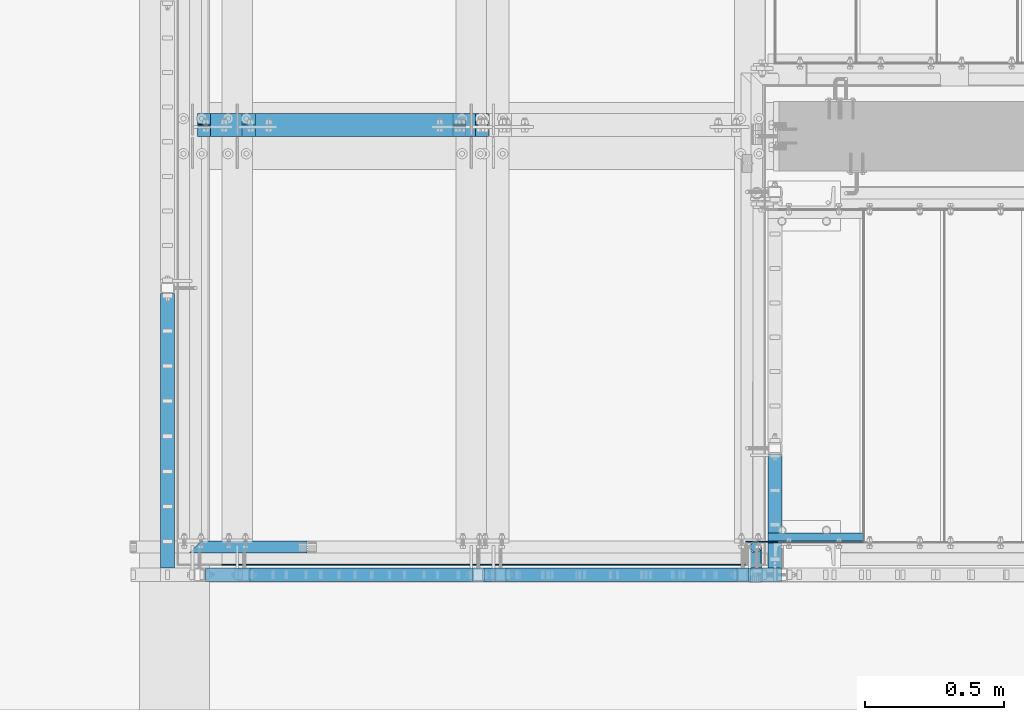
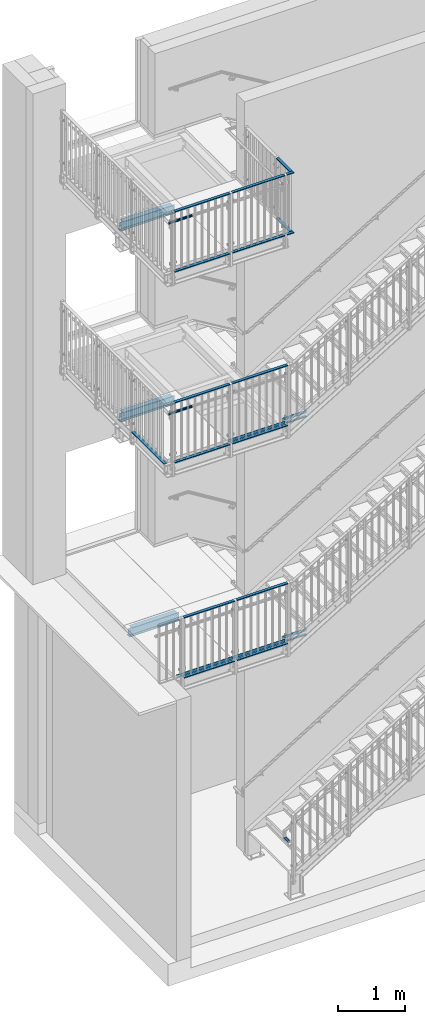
# One storey, part 40 of 410: 30 beams, 18 openings.
"""IFC2X3 building model written with IfcOpenShell, lengths in millimetres."""

from ifc_helpers import new_model, entity, si_unit, converted_unit, point, frame, frame_2d, origin, origin_with_axes, origin_2d, place, context, project, spatial, circle_curve, line_curve, trimmed, segment, composite_curve, rectangle, circle, hollow_circle, i_section, outline, extrude, clip, halfspace, material, element, save


model = new_model("IFC2X3")

# Units and contexts
model_context = context("Model", 3, precision=1e-09, world=origin_with_axes())
ifc_project = project(units=[si_unit("LENGTHUNIT", "METRE", prefix="MILLI"), si_unit("AREAUNIT", "SQUARE_METRE"), si_unit("VOLUMEUNIT", "CUBIC_METRE"), converted_unit("PLANEANGLEUNIT", "DEGREE", entity("IfcPlaneAngleMeasure", 0.01745329), si_unit("PLANEANGLEUNIT", "RADIAN"), dimensions=[0, 0, 0, 0, 0, 0, 0])], contexts=[model_context])

# Site, building, storey
site_placement = place(None, origin_with_axes())
site = spatial("IfcSite", under=ifc_project, at=site_placement, Name="mKR Teilneubau & Sanierung BA1 - Ostfildern", CompositionType="ELEMENT")
building_placement = place(site_placement, origin_with_axes())
building = spatial("IfcBuilding", under=site, at=building_placement, Name="Struktur 1", CompositionType="ELEMENT")
storey_placement = place(building_placement, origin_with_axes())
storey = spatial("IfcBuildingStorey", under=building, at=storey_placement, Name="Default Storey", CompositionType="ELEMENT", Elevation=0.0)

# Beam, openings
ifc_material = material(Name="S235JR")
beam_1_placement = place(None, frame((-3792.0485317, 17020.0, 7360.0), z_axis=(-1.0, 0.0, 0.0), x_axis=(0.0, -1.0, 0.0)))
beam_1 = element("IfcBeam", 1, at=beam_1_placement, inside=storey, material=ifc_material, Name="-", ObjectType="-", context=model_context, shape_type="SweptSolid", body=[
    extrude(i_section(OverallWidth=82.0, OverallDepth=160.0, WebThickness=5.0, FlangeThickness=7.4, FilletRadius=9.0, at=origin_2d()), origin(), (0.0, 0.0, -1.0), 964.1),
])
opening_1_placement = place(beam_1_placement, frame((-141.1, 80.0, -964.1), z_axis=(1.0, 0.0, 0.0), x_axis=(0.0, 0.0, -1.0)))
element("IfcOpeningElement", 2, at=opening_1_placement, cuts=beam_1, ObjectType="Opening", context=model_context, shape_type="SweptSolid", body=[
    extrude(outline(composite_curve([segment(trimmed(circle_curve(frame_2d((-42.051, -20.001), x_axis=(1.0, 0.0)), 5.0), [point((-47.051, -20.001))], [point((-42.051, -25.001))], True, "CARTESIAN"), True, "CONTINUOUS"), segment(trimmed(line_curve((-42.051, -25.001), (1.0, 0.0), 50.275947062), [point((-42.051, -25.001))], [point((8.224947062, -25.001))], True, "CARTESIAN"), True, "CONTINUOUS"), segment(trimmed(circle_curve(frame_2d((8.224947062, -20.001), x_axis=(1.0, 0.0)), 5.0), [point((8.224947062, -25.001))], [point((13.224947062, -20.001))], True, "CARTESIAN"), True, "CONTINUOUS"), segment(trimmed(line_curve((13.224947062, -20.001), (0.0, 1.0), 28.45899753), [point((13.224947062, -20.001))], [point((13.224947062, 8.45799753))], True, "CARTESIAN"), True, "CONTINUOUS"), segment(trimmed(circle_curve(frame_2d((8.224947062, 8.45799753), x_axis=(1.0, 0.0)), 5.0), [point((13.224947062, 8.45799753))], [point((8.224947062, 13.45799753))], True, "CARTESIAN"), True, "CONTINUOUS"), segment(trimmed(line_curve((8.224947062, 13.45799753), (-1.0, 0.0), 50.275947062), [point((8.224947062, 13.45799753))], [point((-42.051, 13.45799753))], True, "CARTESIAN"), True, "CONTINUOUS"), segment(trimmed(circle_curve(frame_2d((-42.051, 8.45799753), x_axis=(1.0, 0.0)), 5.0), [point((-42.051, 13.45799753))], [point((-47.051, 8.45799753))], True, "CARTESIAN"), True, "CONTINUOUS"), segment(trimmed(line_curve((-47.051, 8.45799753), (0.0, -1.0), 28.45899753), [point((-47.051, 8.45799753))], [point((-47.051, -20.001))], True, "CARTESIAN"), True, "CONTINUOUS")], self_intersect=False)), origin(), (0.0, 0.0, 1.0), 282.2),
])
opening_2_placement = place(beam_1_placement, frame((-141.1, 80.0, 0.0), z_axis=(1.0, 0.0, 0.0), x_axis=(0.0, 0.0, -1.0)))
element("IfcOpeningElement", 3, at=opening_2_placement, cuts=beam_1, ObjectType="Opening", context=model_context, shape_type="SweptSolid", body=[
    extrude(outline(composite_curve([segment(trimmed(circle_curve(frame_2d((-11.27912247, -20.001), x_axis=(1.0, 0.0)), 5.0), [point((-16.27912247, -20.001))], [point((-11.27912247, -25.001))], True, "CARTESIAN"), True, "CONTINUOUS"), segment(trimmed(line_curve((-11.27912247, -25.001), (1.0, 0.0), 53.33012247), [point((-11.27912247, -25.001))], [point((42.051, -25.001))], True, "CARTESIAN"), True, "CONTINUOUS"), segment(trimmed(circle_curve(frame_2d((42.051, -20.001), x_axis=(1.0, 0.0)), 5.0), [point((42.051, -25.001))], [point((47.051, -20.001))], True, "CARTESIAN"), True, "CONTINUOUS"), segment(trimmed(line_curve((47.051, -20.001), (0.0, 1.0), 45.855644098), [point((47.051, -20.001))], [point((47.051, 25.854644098))], True, "CARTESIAN"), True, "CONTINUOUS"), segment(trimmed(circle_curve(frame_2d((42.051, 25.854644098), x_axis=(1.0, 0.0)), 5.0), [point((47.051, 25.854644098))], [point((42.051, 30.854644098))], True, "CARTESIAN"), True, "CONTINUOUS"), segment(trimmed(line_curve((42.051, 30.854644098), (-1.0, 0.0), 53.33012247), [point((42.051, 30.854644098))], [point((-11.27912247, 30.854644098))], True, "CARTESIAN"), True, "CONTINUOUS"), segment(trimmed(circle_curve(frame_2d((-11.27912247, 25.854644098), x_axis=(1.0, 0.0)), 5.0), [point((-11.27912247, 30.854644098))], [point((-16.27912247, 25.854644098))], True, "CARTESIAN"), True, "CONTINUOUS"), segment(trimmed(line_curve((-16.27912247, 25.854644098), (0.0, -1.0), 45.855644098), [point((-16.27912247, 25.854644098))], [point((-16.27912247, -20.001))], True, "CARTESIAN"), True, "CONTINUOUS")], self_intersect=False)), origin(), (0.0, 0.0, 1.0), 282.2),
])
opening_3_placement = place(beam_1_placement, frame((-3.0, 0.0, -62.5), z_axis=(1.0, 0.0, 0.0), x_axis=(0.0, 0.0, -1.0)))
element("IfcOpeningElement", 4, at=opening_3_placement, cuts=beam_1, ObjectType="Opening", context=model_context, shape_type="SweptSolid", body=[
    extrude(circle(Radius=9.001, at=frame_2d((32.5, 0.0), x_axis=(1.0, 0.0))), origin(), (0.0, 0.0, 1.0), 6.0),
])
opening_4_placement = place(beam_1_placement, frame((-3.0, 0.0, -62.5), z_axis=(1.0, 0.0, 0.0), x_axis=(0.0, 0.0, -1.0)))
element("IfcOpeningElement", 5, at=opening_4_placement, cuts=beam_1, ObjectType="Opening", context=model_context, shape_type="SweptSolid", body=[
    extrude(circle(Radius=9.001, at=frame_2d((-32.5, 0.0), x_axis=(1.0, 0.0))), origin(), (0.0, 0.0, 1.0), 6.0),
])
opening_5_placement = place(beam_1_placement, frame((-3.0, 0.0, -878.101), z_axis=(-1.0, 0.0, 0.0), x_axis=(0.0, -1.0, 0.0)))
element("IfcOpeningElement", 6, at=opening_5_placement, cuts=beam_1, ObjectType="Opening", context=model_context, shape_type="SweptSolid", body=[
    extrude(circle(Radius=9.001, at=frame_2d((0.0, 9.001), x_axis=(1.0, 0.0))), origin(), (0.0, 0.0, -1.0), 6.0),
])
opening_6_placement = place(beam_1_placement, frame((-3.0, 0.0, -943.101), z_axis=(-1.0, 0.0, 0.0), x_axis=(0.0, -1.0, 0.0)))
element("IfcOpeningElement", 7, at=opening_6_placement, cuts=beam_1, ObjectType="Opening", context=model_context, shape_type="SweptSolid", body=[
    extrude(circle(Radius=9.001, at=frame_2d((0.0, 9.001), x_axis=(1.0, 0.0))), origin(), (0.0, 0.0, -1.0), 6.0),
])

beam_2_placement = place(None, frame((-3632.0485317, 17020.0, -140.0), z_axis=(-1.0, 0.0, 0.0), x_axis=(0.0, -1.0, 0.0)))
beam_2 = element("IfcBeam", 8, at=beam_2_placement, inside=storey, material=ifc_material, Name="-", ObjectType="-", context=model_context, shape_type="SweptSolid", body=[
    extrude(i_section(OverallWidth=82.0, OverallDepth=160.0, WebThickness=5.0, FlangeThickness=7.4, FilletRadius=9.0, at=origin_2d()), origin(), (0.0, 0.0, -1.0), 884.1),
])
opening_7_placement = place(beam_2_placement, frame((-141.1, 80.0, -884.1), z_axis=(1.0, 0.0, 0.0), x_axis=(0.0, 0.0, -1.0)))
element("IfcOpeningElement", 9, at=opening_7_placement, cuts=beam_2, ObjectType="Opening", context=model_context, shape_type="SweptSolid", body=[
    extrude(outline(composite_curve([segment(trimmed(circle_curve(frame_2d((-42.051, -20.001), x_axis=(1.0, 0.0)), 5.0), [point((-47.051, -20.001))], [point((-42.051, -25.001))], True, "CARTESIAN"), True, "CONTINUOUS"), segment(trimmed(line_curve((-42.051, -25.001), (1.0, 0.0), 50.275947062), [point((-42.051, -25.001))], [point((8.224947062, -25.001))], True, "CARTESIAN"), True, "CONTINUOUS"), segment(trimmed(circle_curve(frame_2d((8.224947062, -20.001), x_axis=(1.0, 0.0)), 5.0), [point((8.224947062, -25.001))], [point((13.224947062, -20.001))], True, "CARTESIAN"), True, "CONTINUOUS"), segment(trimmed(line_curve((13.224947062, -20.001), (0.0, 1.0), 28.45899753), [point((13.224947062, -20.001))], [point((13.224947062, 8.45799753))], True, "CARTESIAN"), True, "CONTINUOUS"), segment(trimmed(circle_curve(frame_2d((8.224947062, 8.45799753), x_axis=(1.0, 0.0)), 5.0), [point((13.224947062, 8.45799753))], [point((8.224947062, 13.45799753))], True, "CARTESIAN"), True, "CONTINUOUS"), segment(trimmed(line_curve((8.224947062, 13.45799753), (-1.0, 0.0), 50.275947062), [point((8.224947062, 13.45799753))], [point((-42.051, 13.45799753))], True, "CARTESIAN"), True, "CONTINUOUS"), segment(trimmed(circle_curve(frame_2d((-42.051, 8.45799753), x_axis=(1.0, 0.0)), 5.0), [point((-42.051, 13.45799753))], [point((-47.051, 8.45799753))], True, "CARTESIAN"), True, "CONTINUOUS"), segment(trimmed(line_curve((-47.051, 8.45799753), (0.0, -1.0), 28.45899753), [point((-47.051, 8.45799753))], [point((-47.051, -20.001))], True, "CARTESIAN"), True, "CONTINUOUS")], self_intersect=False)), origin(), (0.0, 0.0, 1.0), 282.2),
])
opening_8_placement = place(beam_2_placement, frame((-141.1, 80.0, 0.0), z_axis=(1.0, 0.0, 0.0), x_axis=(0.0, 0.0, -1.0)))
element("IfcOpeningElement", 10, at=opening_8_placement, cuts=beam_2, ObjectType="Opening", context=model_context, shape_type="SweptSolid", body=[
    extrude(outline(composite_curve([segment(trimmed(circle_curve(frame_2d((-11.27912247, -20.001), x_axis=(1.0, 0.0)), 5.0), [point((-16.27912247, -20.001))], [point((-11.27912247, -25.001))], True, "CARTESIAN"), True, "CONTINUOUS"), segment(trimmed(line_curve((-11.27912247, -25.001), (1.0, 0.0), 53.33012247), [point((-11.27912247, -25.001))], [point((42.051, -25.001))], True, "CARTESIAN"), True, "CONTINUOUS"), segment(trimmed(circle_curve(frame_2d((42.051, -20.001), x_axis=(1.0, 0.0)), 5.0), [point((42.051, -25.001))], [point((47.051, -20.001))], True, "CARTESIAN"), True, "CONTINUOUS"), segment(trimmed(line_curve((47.051, -20.001), (0.0, 1.0), 45.855644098), [point((47.051, -20.001))], [point((47.051, 25.854644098))], True, "CARTESIAN"), True, "CONTINUOUS"), segment(trimmed(circle_curve(frame_2d((42.051, 25.854644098), x_axis=(1.0, 0.0)), 5.0), [point((47.051, 25.854644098))], [point((42.051, 30.854644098))], True, "CARTESIAN"), True, "CONTINUOUS"), segment(trimmed(line_curve((42.051, 30.854644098), (-1.0, 0.0), 53.33012247), [point((42.051, 30.854644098))], [point((-11.27912247, 30.854644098))], True, "CARTESIAN"), True, "CONTINUOUS"), segment(trimmed(circle_curve(frame_2d((-11.27912247, 25.854644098), x_axis=(1.0, 0.0)), 5.0), [point((-11.27912247, 30.854644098))], [point((-16.27912247, 25.854644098))], True, "CARTESIAN"), True, "CONTINUOUS"), segment(trimmed(line_curve((-16.27912247, 25.854644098), (0.0, -1.0), 45.855644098), [point((-16.27912247, 25.854644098))], [point((-16.27912247, -20.001))], True, "CARTESIAN"), True, "CONTINUOUS")], self_intersect=False)), origin(), (0.0, 0.0, 1.0), 282.2),
])
opening_9_placement = place(beam_2_placement, frame((-3.0, 0.0, -62.5), z_axis=(1.0, 0.0, 0.0), x_axis=(0.0, 0.0, -1.0)))
element("IfcOpeningElement", 11, at=opening_9_placement, cuts=beam_2, ObjectType="Opening", context=model_context, shape_type="SweptSolid", body=[
    extrude(circle(Radius=9.001, at=frame_2d((32.5, 0.0), x_axis=(1.0, 0.0))), origin(), (0.0, 0.0, 1.0), 6.0),
])
opening_10_placement = place(beam_2_placement, frame((-3.0, 0.0, -62.5), z_axis=(1.0, 0.0, 0.0), x_axis=(0.0, 0.0, -1.0)))
element("IfcOpeningElement", 12, at=opening_10_placement, cuts=beam_2, ObjectType="Opening", context=model_context, shape_type="SweptSolid", body=[
    extrude(circle(Radius=9.001, at=frame_2d((-32.5, 0.0), x_axis=(1.0, 0.0))), origin(), (0.0, 0.0, 1.0), 6.0),
])
opening_11_placement = place(beam_2_placement, frame((-3.0, 0.0, -798.101), z_axis=(-1.0, 0.0, 0.0), x_axis=(0.0, -1.0, 0.0)))
element("IfcOpeningElement", 13, at=opening_11_placement, cuts=beam_2, ObjectType="Opening", context=model_context, shape_type="SweptSolid", body=[
    extrude(circle(Radius=9.001, at=frame_2d((0.0, 9.001), x_axis=(1.0, 0.0))), origin(), (0.0, 0.0, -1.0), 6.0),
])
opening_12_placement = place(beam_2_placement, frame((-3.0, 0.0, -863.101), z_axis=(-1.0, 0.0, 0.0), x_axis=(0.0, -1.0, 0.0)))
element("IfcOpeningElement", 14, at=opening_12_placement, cuts=beam_2, ObjectType="Opening", context=model_context, shape_type="SweptSolid", body=[
    extrude(circle(Radius=9.001, at=frame_2d((0.0, 9.001), x_axis=(1.0, 0.0))), origin(), (0.0, 0.0, -1.0), 6.0),
])

# Beams
beam_3_placement = place(None, frame((-1744.9975317, 15537.499999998, 3932.5), z_axis=(1.0, 0.0, 0.0), x_axis=(0.0, 0.0, -1.0)))
element("IfcBeam", 15, at=beam_3_placement, inside=storey, material=ifc_material, Name="-", ObjectType="-", context=model_context, shape_type="SweptSolid", body=[
    extrude(rectangle(XDim=15.0, YDim=35.0, at=origin_2d()), origin(), (0.0, 0.0, 1.0), 341.519669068),
])
beam_4_placement = place(None, frame((-1744.9975317, 15537.499999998, -67.5), z_axis=(1.0, 0.0, 0.0), x_axis=(0.0, 0.0, -1.0)))
element("IfcBeam", 16, at=beam_4_placement, inside=storey, material=ifc_material, Name="-", ObjectType="-", context=model_context, shape_type="SweptSolid", body=[
    extrude(rectangle(XDim=15.0, YDim=35.0, at=origin_2d()), origin(), (0.0, 0.0, 1.0), 342.695388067),
])
for number, where, z_axis, x_axis in (
    (17, (-2764.49853167, 15405.999999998, 5092.5), (-1.0, 0.0, 0.0), (0.0, 0.0, -1.0)),
    (18, (-1805.49853167, 15405.999999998, 3992.5), (1.0, 0.0, 0.0), (0.0, 0.0, 1.0)),
):
    element("IfcBeam", number, at=place(None, frame(where, z_axis=z_axis, x_axis=x_axis)), inside=storey, material=ifc_material, Name="-", ObjectType="-", context=model_context, shape_type="SweptSolid", body=[
        extrude(rectangle(XDim=15.0, YDim=50.0, at=origin_2d()), origin(), (0.0, 0.0, -1.0), 959.0),
    ])
for number, where, z_axis, x_axis in (
    (19, (-2764.49853167, 15405.999999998, 8592.5), (-1.0, 0.0, 0.0), (0.0, 0.0, -1.0)),
    (20, (-1855.49853167, 15405.999999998, 7492.5), (1.0, 0.0, 0.0), (0.0, 0.0, 1.0)),
):
    element("IfcBeam", number, at=place(None, frame(where, z_axis=z_axis, x_axis=x_axis)), inside=storey, material=ifc_material, Name="-", ObjectType="-", context=model_context, shape_type="SweptSolid", body=[
        extrude(rectangle(XDim=15.0, YDim=50.0, at=origin_2d()), origin(), (0.0, 0.0, -1.0), 909.0),
    ])
for number, where, z_axis, x_axis in (
    (21, (-3764.49853167, 15405.999999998, 8592.5), (-1.0, 0.0, 0.0), (0.0, 0.0, -1.0)),
    (22, (-2805.49853167, 15405.999999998, 7492.5), (1.0, 0.0, 0.0), (0.0, 0.0, 1.0)),
):
    element("IfcBeam", number, at=place(None, frame(where, z_axis=z_axis, x_axis=x_axis)), inside=storey, material=ifc_material, Name="-", ObjectType="-", context=model_context, shape_type="SweptSolid", body=[
        extrude(rectangle(XDim=15.0, YDim=50.0, at=origin_2d()), origin(), (0.0, 0.0, -1.0), 959.0),
    ])
for number, where, z_axis, x_axis in (
    (23, (-1720.0485317, 15839.5, 8592.5), (0.0, -1.0, 0.0), (0.0, 0.0, -1.0)),
    (24, (-1720.0485317, 15430.999999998, 7492.5), (0.0, 1.0, 0.0), (0.0, 0.0, 1.0)),
):
    element("IfcBeam", number, at=place(None, frame(where, z_axis=z_axis, x_axis=x_axis)), inside=storey, material=ifc_material, Name="-", ObjectType="-", context=model_context, shape_type="SweptSolid", body=[
        extrude(rectangle(XDim=15.0, YDim=50.0, at=origin_2d()), origin(), (0.0, 0.0, 1.0), 408.500000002),
    ])
for number, where, z_axis, x_axis in (
    (25, (-1695.0485317, 15405.999999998, 8592.5), (-1.0, 0.0, 0.0), (0.0, 0.0, -1.0)),
    (26, (-1814.49853167, 15405.999999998, 7492.5), (1.0, 0.0, 0.0), (0.0, 0.0, 1.0)),
):
    element("IfcBeam", number, at=place(None, frame(where, z_axis=z_axis, x_axis=x_axis)), inside=storey, material=ifc_material, Name="-", ObjectType="-", context=model_context, shape_type="SweptSolid", body=[
        extrude(rectangle(XDim=15.0, YDim=50.0, at=origin_2d()), origin(), (0.0, 0.0, 1.0), 119.449999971),
    ])
for number, where, z_axis, x_axis in (
    (27, (-2684.49853167, 15405.999999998, 1092.5), (-1.0, 0.0, 0.0), (0.0, 0.0, -1.0)),
    (28, (-1805.49853167, 15405.999999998, -7.5), (1.0, 0.0, 0.0), (0.0, 0.0, 1.0)),
):
    element("IfcBeam", number, at=place(None, frame(where, z_axis=z_axis, x_axis=x_axis)), inside=storey, material=ifc_material, Name="-", ObjectType="-", context=model_context, shape_type="SweptSolid", body=[
        extrude(rectangle(XDim=15.0, YDim=50.0, at=origin_2d()), origin(), (0.0, 0.0, -1.0), 879.0),
    ])
beam_5_placement = place(None, frame((-1789.998531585, 15548.399999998, -3641.2), z_axis=(0.0, 1.0, 0.0), x_axis=(-1.0, 0.0, 0.0)))
element("IfcBeam", 29, at=beam_5_placement, inside=storey, Name="-", ObjectType="-", context=model_context, shape_type="Clipping", body=[
    clip(extrude(hollow_circle(Radius=21.2, WallThickness=3.2, at=origin_2d()), origin(), (0.0, 0.0, -1.0), 167.4), halfspace(frame((-1789.998531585, 9573.599292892, -9616.000707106), z_axis=(0.0, -0.707106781, -0.707106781), x_axis=(-1.0, 0.0, 0.0)), True)),
])

# Beam, openings
beam_6_placement = place(None, frame((-3792.0485317, 17020.0, 3860.0), z_axis=(-1.0, 0.0, 0.0), x_axis=(0.0, -1.0, 0.0)))
beam_6 = element("IfcBeam", 30, at=beam_6_placement, inside=storey, material=ifc_material, Name="-", ObjectType="-", context=model_context, shape_type="SweptSolid", body=[
    extrude(i_section(OverallWidth=82.0, OverallDepth=160.0, WebThickness=5.0, FlangeThickness=7.4, FilletRadius=9.0, at=origin_2d()), origin(), (0.0, 0.0, -1.0), 964.1),
])
opening_13_placement = place(beam_6_placement, frame((-141.1, 80.0, -964.1), z_axis=(1.0, 0.0, 0.0), x_axis=(0.0, 0.0, -1.0)))
element("IfcOpeningElement", 31, at=opening_13_placement, cuts=beam_6, ObjectType="Opening", context=model_context, shape_type="SweptSolid", body=[
    extrude(outline(composite_curve([segment(trimmed(circle_curve(frame_2d((-42.051, -20.001), x_axis=(1.0, 0.0)), 5.0), [point((-47.051, -20.001))], [point((-42.051, -25.001))], True, "CARTESIAN"), True, "CONTINUOUS"), segment(trimmed(line_curve((-42.051, -25.001), (1.0, 0.0), 50.275947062), [point((-42.051, -25.001))], [point((8.224947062, -25.001))], True, "CARTESIAN"), True, "CONTINUOUS"), segment(trimmed(circle_curve(frame_2d((8.224947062, -20.001), x_axis=(1.0, 0.0)), 5.0), [point((8.224947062, -25.001))], [point((13.224947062, -20.001))], True, "CARTESIAN"), True, "CONTINUOUS"), segment(trimmed(line_curve((13.224947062, -20.001), (0.0, 1.0), 28.45899753), [point((13.224947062, -20.001))], [point((13.224947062, 8.45799753))], True, "CARTESIAN"), True, "CONTINUOUS"), segment(trimmed(circle_curve(frame_2d((8.224947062, 8.45799753), x_axis=(1.0, 0.0)), 5.0), [point((13.224947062, 8.45799753))], [point((8.224947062, 13.45799753))], True, "CARTESIAN"), True, "CONTINUOUS"), segment(trimmed(line_curve((8.224947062, 13.45799753), (-1.0, 0.0), 50.275947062), [point((8.224947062, 13.45799753))], [point((-42.051, 13.45799753))], True, "CARTESIAN"), True, "CONTINUOUS"), segment(trimmed(circle_curve(frame_2d((-42.051, 8.45799753), x_axis=(1.0, 0.0)), 5.0), [point((-42.051, 13.45799753))], [point((-47.051, 8.45799753))], True, "CARTESIAN"), True, "CONTINUOUS"), segment(trimmed(line_curve((-47.051, 8.45799753), (0.0, -1.0), 28.45899753), [point((-47.051, 8.45799753))], [point((-47.051, -20.001))], True, "CARTESIAN"), True, "CONTINUOUS")], self_intersect=False)), origin(), (0.0, 0.0, 1.0), 282.2),
])
opening_14_placement = place(beam_6_placement, frame((-141.1, 80.0, 0.0), z_axis=(1.0, 0.0, 0.0), x_axis=(0.0, 0.0, -1.0)))
element("IfcOpeningElement", 32, at=opening_14_placement, cuts=beam_6, ObjectType="Opening", context=model_context, shape_type="SweptSolid", body=[
    extrude(outline(composite_curve([segment(trimmed(circle_curve(frame_2d((-11.27912247, -20.001), x_axis=(1.0, 0.0)), 5.0), [point((-16.27912247, -20.001))], [point((-11.27912247, -25.001))], True, "CARTESIAN"), True, "CONTINUOUS"), segment(trimmed(line_curve((-11.27912247, -25.001), (1.0, 0.0), 53.33012247), [point((-11.27912247, -25.001))], [point((42.051, -25.001))], True, "CARTESIAN"), True, "CONTINUOUS"), segment(trimmed(circle_curve(frame_2d((42.051, -20.001), x_axis=(1.0, 0.0)), 5.0), [point((42.051, -25.001))], [point((47.051, -20.001))], True, "CARTESIAN"), True, "CONTINUOUS"), segment(trimmed(line_curve((47.051, -20.001), (0.0, 1.0), 45.855644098), [point((47.051, -20.001))], [point((47.051, 25.854644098))], True, "CARTESIAN"), True, "CONTINUOUS"), segment(trimmed(circle_curve(frame_2d((42.051, 25.854644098), x_axis=(1.0, 0.0)), 5.0), [point((47.051, 25.854644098))], [point((42.051, 30.854644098))], True, "CARTESIAN"), True, "CONTINUOUS"), segment(trimmed(line_curve((42.051, 30.854644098), (-1.0, 0.0), 53.33012247), [point((42.051, 30.854644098))], [point((-11.27912247, 30.854644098))], True, "CARTESIAN"), True, "CONTINUOUS"), segment(trimmed(circle_curve(frame_2d((-11.27912247, 25.854644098), x_axis=(1.0, 0.0)), 5.0), [point((-11.27912247, 30.854644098))], [point((-16.27912247, 25.854644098))], True, "CARTESIAN"), True, "CONTINUOUS"), segment(trimmed(line_curve((-16.27912247, 25.854644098), (0.0, -1.0), 45.855644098), [point((-16.27912247, 25.854644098))], [point((-16.27912247, -20.001))], True, "CARTESIAN"), True, "CONTINUOUS")], self_intersect=False)), origin(), (0.0, 0.0, 1.0), 282.2),
])
opening_15_placement = place(beam_6_placement, frame((-3.0, 0.0, -62.5), z_axis=(1.0, 0.0, 0.0), x_axis=(0.0, 0.0, -1.0)))
element("IfcOpeningElement", 33, at=opening_15_placement, cuts=beam_6, ObjectType="Opening", context=model_context, shape_type="SweptSolid", body=[
    extrude(circle(Radius=9.001, at=frame_2d((32.5, 0.0), x_axis=(1.0, 0.0))), origin(), (0.0, 0.0, 1.0), 6.0),
])
opening_16_placement = place(beam_6_placement, frame((-3.0, 0.0, -62.5), z_axis=(1.0, 0.0, 0.0), x_axis=(0.0, 0.0, -1.0)))
element("IfcOpeningElement", 34, at=opening_16_placement, cuts=beam_6, ObjectType="Opening", context=model_context, shape_type="SweptSolid", body=[
    extrude(circle(Radius=9.001, at=frame_2d((-32.5, 0.0), x_axis=(1.0, 0.0))), origin(), (0.0, 0.0, 1.0), 6.0),
])
opening_17_placement = place(beam_6_placement, frame((-3.0, 0.0, -878.101), z_axis=(-1.0, 0.0, 0.0), x_axis=(0.0, -1.0, 0.0)))
element("IfcOpeningElement", 35, at=opening_17_placement, cuts=beam_6, ObjectType="Opening", context=model_context, shape_type="SweptSolid", body=[
    extrude(circle(Radius=9.001, at=frame_2d((0.0, 9.001), x_axis=(1.0, 0.0))), origin(), (0.0, 0.0, -1.0), 6.0),
])
opening_18_placement = place(beam_6_placement, frame((-3.0, 0.0, -943.101), z_axis=(-1.0, 0.0, 0.0), x_axis=(0.0, -1.0, 0.0)))
element("IfcOpeningElement", 36, at=opening_18_placement, cuts=beam_6, ObjectType="Opening", context=model_context, shape_type="SweptSolid", body=[
    extrude(circle(Radius=9.001, at=frame_2d((0.0, 9.001), x_axis=(1.0, 0.0))), origin(), (0.0, 0.0, -1.0), 6.0),
])

# Beams
for number, where, z_axis, x_axis in (
    (37, (-1824.050110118, 15524.000999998, 25.0), (-1.0, 0.0, 0.0), (0.0, -1.0, 0.0)),
    (38, (-1824.050110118, 15524.000999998, 4025.0), (-1.0, 0.0, 0.0), (0.0, -1.0, 0.0)),
):
    element("IfcBeam", number, at=place(None, frame(where, z_axis=z_axis, x_axis=x_axis)), inside=storey, material=ifc_material, Name="-", ObjectType="-", context=model_context, shape_type="SweptSolid", body=[
        extrude(rectangle(XDim=4.0, YDim=50.0, at=origin_2d()), origin(), (0.0, 0.0, -1.0), 420.050110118),
    ])
beam_7_placement = place(None, frame((-2808.9985317, 15441.999999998, 4025.0), z_axis=(-1.0, 0.0, 0.0), x_axis=(0.0, -1.0, 0.0)))
element("IfcBeam", 39, at=beam_7_placement, inside=storey, material=ifc_material, Name="-", ObjectType="-", context=model_context, shape_type="SweptSolid", body=[
    extrude(rectangle(XDim=4.0, YDim=50.0, at=origin_2d()), origin(), (0.0, 0.0, -1.0), 984.948421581),
])
beam_8_placement = place(None, frame((-3704.9985317, 15441.999999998, 25.0), z_axis=(-1.0, 0.0, 0.0), x_axis=(0.0, -1.0, 0.0)))
element("IfcBeam", 40, at=beam_8_placement, inside=storey, material=ifc_material, Name="-", ObjectType="-", context=model_context, shape_type="SweptSolid", body=[
    extrude(rectangle(XDim=4.0, YDim=50.0, at=origin_2d()), origin(), (0.0, 0.0, -1.0), 974.0),
])
beam_9_placement = place(None, frame((-2728.9985317, 15441.999999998, 25.0), z_axis=(-1.0, 0.0, 0.0), x_axis=(0.0, -1.0, 0.0)))
element("IfcBeam", 41, at=beam_9_placement, inside=storey, material=ifc_material, Name="-", ObjectType="-", context=model_context, shape_type="SweptSolid", body=[
    extrude(rectangle(XDim=4.0, YDim=50.0, at=origin_2d()), origin(), (0.0, 0.0, -1.0), 904.948421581),
])
for number, where, z_axis, x_axis in (
    (42, (-3764.49853167, 15405.999999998, 5092.5), (-1.0, 0.0, 0.0), (0.0, 0.0, -1.0)),
    (43, (-2805.49853167, 15405.999999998, 3992.5), (1.0, 0.0, 0.0), (0.0, 0.0, 1.0)),
):
    element("IfcBeam", number, at=place(None, frame(where, z_axis=z_axis, x_axis=x_axis)), inside=storey, material=ifc_material, Name="-", ObjectType="-", context=model_context, shape_type="SweptSolid", body=[
        extrude(rectangle(XDim=15.0, YDim=50.0, at=origin_2d()), origin(), (0.0, 0.0, -1.0), 959.0),
    ])
for number, where, z_axis, x_axis in (
    (44, (-3604.49853167, 15405.999999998, 1092.5), (-1.0, 0.0, 0.0), (0.0, 0.0, -1.0)),
    (45, (-2725.49853167, 15405.999999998, -7.5), (1.0, 0.0, 0.0), (0.0, 0.0, 1.0)),
):
    element("IfcBeam", number, at=place(None, frame(where, z_axis=z_axis, x_axis=x_axis)), inside=storey, material=ifc_material, Name="-", ObjectType="-", context=model_context, shape_type="SweptSolid", body=[
        extrude(rectangle(XDim=15.0, YDim=50.0, at=origin_2d()), origin(), (0.0, 0.0, -1.0), 879.0),
    ])
beam_10_placement = place(None, frame((-3899.9485317, 15430.999999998, 3992.500000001), z_axis=(0.0, -1.0, 0.0), x_axis=(0.0, 0.0, 1.0)))
element("IfcBeam", 46, at=beam_10_placement, inside=storey, material=ifc_material, Name="-", ObjectType="-", context=model_context, shape_type="SweptSolid", body=[
    extrude(rectangle(XDim=15.0, YDim=50.0, at=origin_2d()), origin(), (0.0, 0.0, -1.0), 983.5),
])
beam_11_placement = place(None, frame((-3842.3485317, 15505.999999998, 4828.8), z_axis=(-1.0, 0.0, 0.0), x_axis=(0.0, -1.0, 0.0)))
element("IfcBeam", 47, at=beam_11_placement, inside=storey, Name="-", ObjectType="-", context=model_context, shape_type="Clipping", body=[
    clip(extrude(hollow_circle(Radius=21.2, WallThickness=3.2, at=origin_2d()), origin(), (0.0, 0.0, -1.0), 442.4), halfspace(frame((5853.026441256, -4828.8, 5810.625027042), z_axis=(0.707106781, 0.0, -0.707106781), x_axis=(-0.707106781, 0.0, -0.707106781)), True)),
])
beam_12_placement = place(None, frame((-3842.3485317, 15505.999999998, 8328.8), z_axis=(-1.0, 0.0, 0.0), x_axis=(0.0, -1.0, 0.0)))
element("IfcBeam", 48, at=beam_12_placement, inside=storey, Name="-", ObjectType="-", context=model_context, shape_type="Clipping", body=[
    clip(extrude(hollow_circle(Radius=21.2, WallThickness=3.2, at=origin_2d()), origin(), (0.0, 0.0, -1.0), 442.4), halfspace(frame((5853.026441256, -8328.8, 5810.625027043), z_axis=(0.707106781, 0.0, -0.707106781), x_axis=(-0.707106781, 0.0, -0.707106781)), True)),
])

save(model, "model.ifc")
